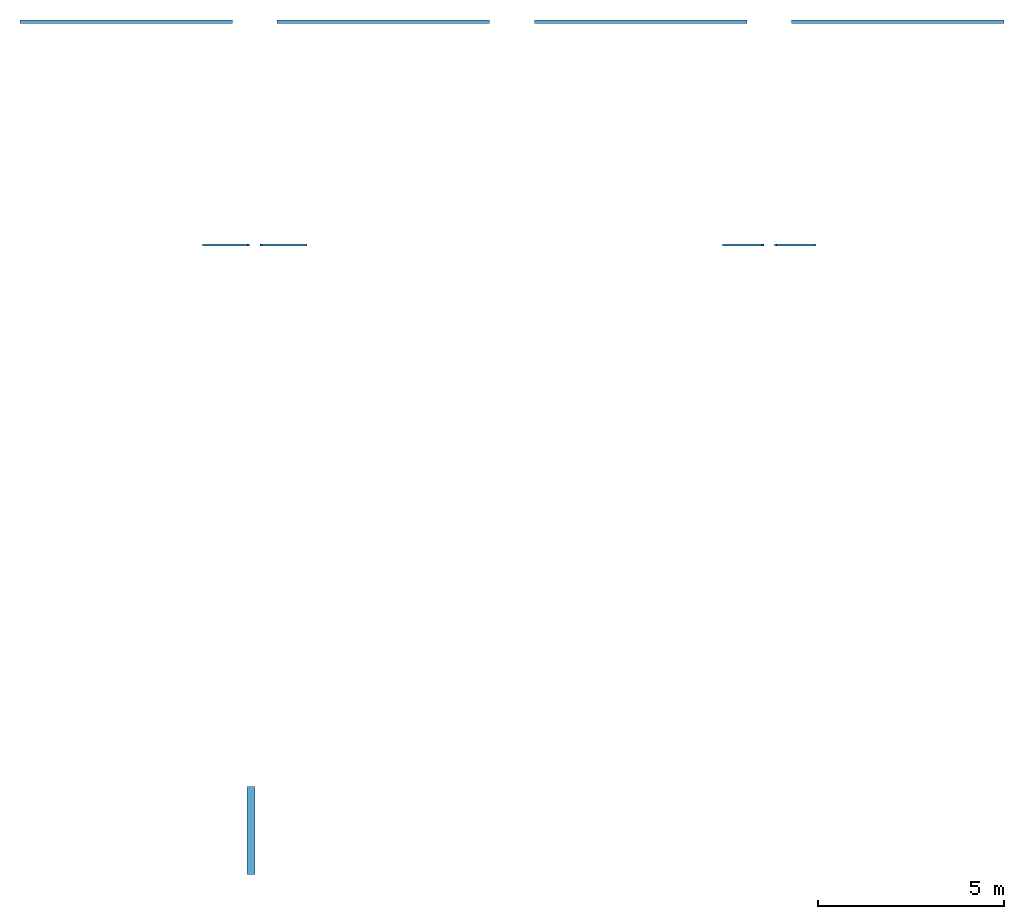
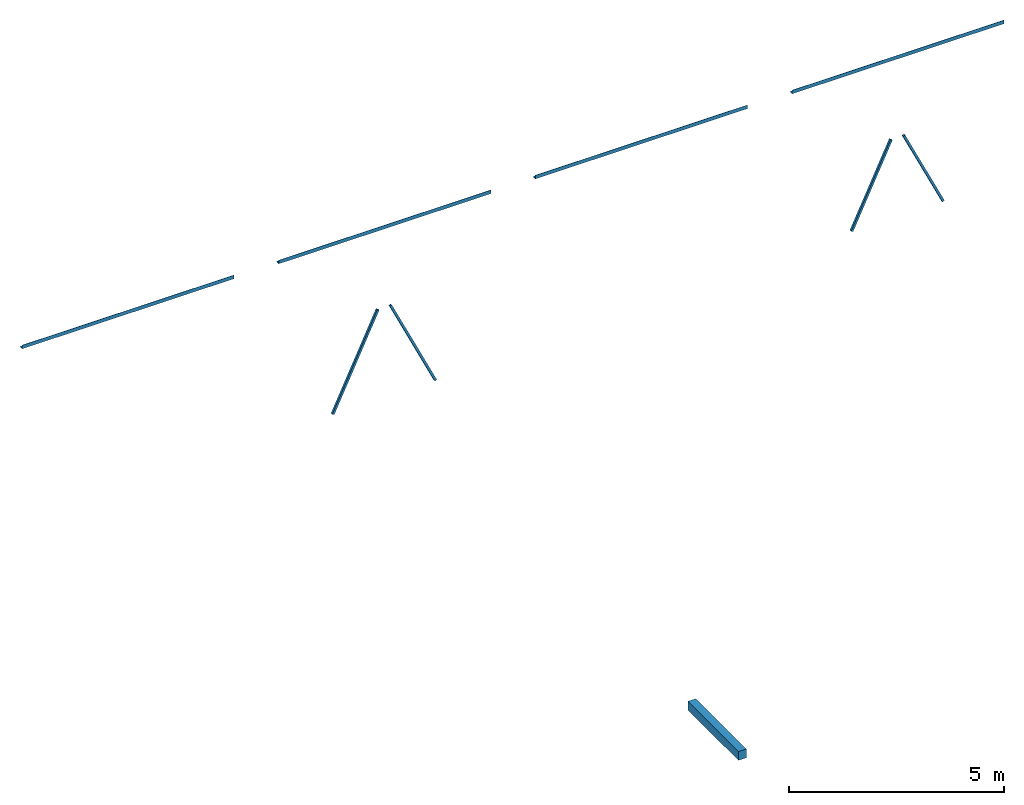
# One storey: 9 beams.
"""IFC2X3 building model written with IfcOpenShell, lengths in millimetres."""

import ifcopenshell
import ifcopenshell.guid

model = None  # the IFC model being written
_history = None  # IfcOwnerHistory: only IFC2X3 demands one
_inside = {}  # id of a spatial element -> (the spatial element, [elements in it])
_under = {}  # id of a project, library or spatial element -> (it, [spatial elements below it])
_declared = {}  # id of a project -> (the project, [libraries it declares])
_typed = {}  # id of a type object -> (the type object, [elements of that type])
_made_of = {}  # id of a material, layer set ... -> (it, [elements and type objects made of it])


def new_model(schema):
    """Start an empty IFC model of exactly this schema.

    Asked for "IFC4X3", IfcOpenShell would pick the latest addendum, in which some entities
    have other attributes; the version numbers below select the first issue.
    IFC2X3 requires an IfcOwnerHistory on every rooted entity: one is made here for all.
    """
    global model, _history
    if schema == "IFC4X3":
        model = ifcopenshell.file(schema_version=(4, 3, 0, 0))
    else:
        model = ifcopenshell.file(schema=schema)
    _inside.clear()
    _under.clear()
    _declared.clear()
    _typed.clear()
    _made_of.clear()
    _history = None
    if model.schema == "IFC2X3":
        org = make("IfcOrganization", Name="unknown")
        user = make(
            "IfcPersonAndOrganization",
            ThePerson=make("IfcPerson", FamilyName="unknown"),
            TheOrganization=org,
        )
        app = make(
            "IfcApplication",
            ApplicationDeveloper=org,
            Version="unknown",
            ApplicationFullName="unknown",
            ApplicationIdentifier="unknown",
        )
        _history = make(
            "IfcOwnerHistory",
            OwningUser=user,
            OwningApplication=app,
            ChangeAction="ADDED",
            CreationDate=0,
        )
    return model


def make(cls, **values):
    """One entity of the class cls with the attributes given. An attribute that is None is left unset."""
    return model.create_entity(
        cls, **{name: value for name, value in values.items() if value is not None}
    )


def entity(cls, *values):
    """Any entity or typed value of the class cls, its attributes in the order of the schema. None: left unset."""
    e = model.create_entity(cls)
    for i, value in enumerate(values):
        if value is not None:
            e[i] = value
    return e


def rooted(cls, **values):
    """An entity with a GlobalId (a new one), such as an element, a storey or a relation."""
    return make(cls, GlobalId=ifcopenshell.guid.new(), OwnerHistory=_history, **values)


def si_unit(unit_type, name, prefix=None):
    """IfcSIUnit, for example si_unit("LENGTHUNIT", "METRE", prefix="MILLI")."""
    return make("IfcSIUnit", UnitType=unit_type, Prefix=prefix, Name=name)


def converted_unit(unit_type, name, factor, base, dimensions=None, offset=None):
    """IfcConversionBasedUnit, such as the inch: factor (a typed value) times the base unit."""
    return make(
        "IfcConversionBasedUnit"
        if offset is None
        else "IfcConversionBasedUnitWithOffset",
        ConversionOffset=offset,
        Dimensions=None
        if dimensions is None
        else entity("IfcDimensionalExponents", *dimensions),
        UnitType=unit_type,
        Name=name,
        ConversionFactor=make(
            "IfcMeasureWithUnit", ValueComponent=factor, UnitComponent=base
        ),
    )


def derived_unit(unit_type, elements):
    """IfcDerivedUnit: a product of units, each with its exponent."""
    return make(
        "IfcDerivedUnit",
        Elements=[
            make("IfcDerivedUnitElement", Unit=unit, Exponent=power)
            for unit, power in elements
        ],
        UnitType=unit_type,
    )


def assignment(units):
    """IfcUnitAssignment: the units of a project."""
    return None if units is None else make("IfcUnitAssignment", Units=units)


def point(xyz):
    """IfcCartesianPoint."""
    return None if xyz is None else make("IfcCartesianPoint", Coordinates=xyz)


def direction(xyz):
    """IfcDirection."""
    return None if xyz is None else make("IfcDirection", DirectionRatios=xyz)


def frame(location, z_axis=None, x_axis=None):
    """IfcAxis2Placement3D, a coordinate frame: its origin and axes. An axis left out is left unset."""
    return make(
        "IfcAxis2Placement3D",
        Location=point(location),
        Axis=direction(z_axis),
        RefDirection=direction(x_axis),
    )


def frame_2d(location, x_axis=None):
    """IfcAxis2Placement2D, a coordinate frame in the plane: its origin and x axis."""
    return make(
        "IfcAxis2Placement2D", Location=point(location), RefDirection=direction(x_axis)
    )


def origin():
    """The frame at (0, 0, 0) with its axes left unset."""
    return frame((0.0, 0.0, 0.0))


def place(relative_to, where):
    """IfcLocalPlacement: puts the frame where relative to a parent placement (None: the world)."""
    return make(
        "IfcLocalPlacement", PlacementRelTo=relative_to, RelativePlacement=where
    )


def context(
    kind, dimensions, precision=None, world=None, true_north=None, identifier=None
):
    """IfcGeometricRepresentationContext, for example the 3D "Model" context."""
    return make(
        "IfcGeometricRepresentationContext",
        ContextIdentifier=identifier,
        ContextType=kind,
        CoordinateSpaceDimension=dimensions,
        Precision=precision,
        WorldCoordinateSystem=world,
        TrueNorth=true_north,
    )


def subcontext(parent, identifier, kind, view, scale=None):
    """IfcGeometricRepresentationSubContext, for example "Body" below "Model"."""
    return make(
        "IfcGeometricRepresentationSubContext",
        ContextIdentifier=identifier,
        ContextType=kind,
        ParentContext=parent,
        TargetScale=scale,
        TargetView=view,
    )


def project(units=None, contexts=None):
    """IfcProject with its units and contexts."""
    return rooted(
        "IfcProject",
        Name="project",
        RepresentationContexts=contexts,
        UnitsInContext=assignment(units),
    )


def spatial(cls, under=None, at=None, **own):
    """A site, building, storey or space (cls), placed at a placement, below another one or the project."""
    s = rooted(cls, ObjectPlacement=at, **own)
    if under is not None:
        _under.setdefault(under.id(), (under, []))[1].append(s)
    return s


def polyline(points):
    """IfcPolyline through the points."""
    return make("IfcPolyline", Points=[point(p) for p in points])


def profile(cls, at=None, kind="AREA", **sizes):
    """A parametric profile (cls). Its sizes go by their IFC names, for example OverallWidth=200.0."""
    return make(cls, ProfileType=kind, Position=at, **sizes)


def rectangle(**sizes):
    """IfcRectangleProfileDef."""
    return profile("IfcRectangleProfileDef", **sizes)


def outline(outer, holes=None, kind="AREA"):
    """IfcArbitraryClosedProfileDef: a profile drawn as a closed curve; with holes, ...WithVoids."""
    if holes is None:
        return make("IfcArbitraryClosedProfileDef", ProfileType=kind, OuterCurve=outer)
    return make(
        "IfcArbitraryProfileDefWithVoids",
        ProfileType=kind,
        OuterCurve=outer,
        InnerCurves=holes,
    )


def extrude(swept, where, along, depth):
    """IfcExtrudedAreaSolid: the profile swept, set in the frame where, extruded along a direction by depth."""
    return make(
        "IfcExtrudedAreaSolid",
        SweptArea=swept,
        Position=where,
        ExtrudedDirection=direction(along),
        Depth=depth,
    )


def boolean(op, a, b):
    """IfcBooleanResult of two solids."""
    return make("IfcBooleanResult", Operator=op, FirstOperand=a, SecondOperand=b)


def shape(context_of_items, identifier, shape_type, items):
    """IfcShapeRepresentation: the items that make up one representation, for example the "Body"."""
    return make(
        "IfcShapeRepresentation",
        ContextOfItems=context_of_items,
        RepresentationIdentifier=identifier,
        RepresentationType=shape_type,
        Items=items,
    )


def material(Name=None, Category=None):
    """IfcMaterial."""
    return make("IfcMaterial", Name=Name, Category=Category)


def made_of(thing, what):
    """Note that an element or type object is made of a material, layer set ...; save() writes the relation."""
    if what is not None:
        _made_of.setdefault(what.id(), (what, []))[1].append(thing)
    return thing


def type_object(cls, material=None, **own):
    """A type object (cls), such as IfcWallType, which elements share."""
    return made_of(rooted(cls, **own), material)


def element(
    cls,
    number,
    at=None,
    inside=None,
    cuts=None,
    type_object=None,
    material=None,
    context=None,
    identifier="Body",
    shape_type=None,
    held_by="IfcProductDefinitionShape",
    body=None,
    shapes=None,
    **own,
):
    """One element of the class cls, such as IfcWall. Its Tag is "e" and its number.

    at: its placement. inside: the storey or other place that contains it. cuts: it is an
    opening in that element (IfcRelVoidsElement). A single representation is given by context,
    identifier, shape_type and body (its items); several are given by shapes. held_by: the class
    of the entity that holds the representations. save() writes the other relations.
    """
    e = rooted(cls, Tag="e%d" % number, ObjectPlacement=at, **own)
    if body is not None:
        shapes = [shape(context, identifier, shape_type, body)]
    if shapes is not None:
        e.Representation = make(held_by, Representations=shapes)
    if inside is not None:
        _inside.setdefault(inside.id(), (inside, []))[1].append(e)
    if cuts is not None:
        rooted(
            "IfcRelVoidsElement", RelatingBuildingElement=cuts, RelatedOpeningElement=e
        )
    if type_object is not None:
        _typed.setdefault(type_object.id(), (type_object, []))[1].append(e)
    return made_of(e, material)


def aggregate(whole, parts):
    """IfcRelAggregates: a whole, such as a stair, and the parts it consists of."""
    return rooted("IfcRelAggregates", RelatingObject=whole, RelatedObjects=parts)


def save(model, path):
    """Write the relations noted so far, then the file.

    IfcRelAggregates (storeys below a building ...), IfcRelContainedInSpatialStructure (elements
    in a storey), IfcRelDefinesByType, IfcRelAssociatesMaterial and IfcRelDeclares: one each for
    every whole, place, type object, material and project.
    """
    for whole, parts in _under.values():
        aggregate(whole, parts)
    for where, things in _inside.values():
        rooted(
            "IfcRelContainedInSpatialStructure",
            RelatedElements=things,
            RelatingStructure=where,
        )
    for kind, things in _typed.values():
        rooted("IfcRelDefinesByType", RelatedObjects=things, RelatingType=kind)
    for what, things in _made_of.values():
        rooted("IfcRelAssociatesMaterial", RelatedObjects=things, RelatingMaterial=what)
    for by, libraries in _declared.values():
        rooted("IfcRelDeclares", RelatingContext=by, RelatedDefinitions=libraries)
    model.write(path)


model = new_model("IFC2X3")

# Units and contexts
model_context = context("Model", 3, precision=0.01, world=origin(), true_north=direction((6.123031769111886e-17, 1.0)))
body_context = subcontext(model_context, "Body", "Model", "MODEL_VIEW")
ifc_project = project(units=[si_unit("LENGTHUNIT", "METRE", prefix="MILLI"), si_unit("AREAUNIT", "SQUARE_METRE", prefix="MILLI"), si_unit("VOLUMEUNIT", "CUBIC_METRE"), converted_unit("PLANEANGLEUNIT", "DEGREE", entity("IfcPlaneAngleMeasure", 0.017453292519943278), si_unit("PLANEANGLEUNIT", "RADIAN"), dimensions=[0, 0, 0, 0, 0, 0, 0]), si_unit("MASSUNIT", "GRAM", prefix="KILO"), derived_unit("MASSDENSITYUNIT", [(si_unit("MASSUNIT", "GRAM", prefix="KILO"), 1), (si_unit("LENGTHUNIT", "METRE"), -3)]), derived_unit("IONCONCENTRATIONUNIT", [(si_unit("MASSUNIT", "GRAM", prefix="KILO"), 1), (si_unit("LENGTHUNIT", "METRE"), -3)]), derived_unit("MOMENTOFINERTIAUNIT", [(si_unit("LENGTHUNIT", "METRE"), 4)]), si_unit("TIMEUNIT", "SECOND"), si_unit("FREQUENCYUNIT", "HERTZ"), si_unit("THERMODYNAMICTEMPERATUREUNIT", "DEGREE_CELSIUS"), derived_unit("THERMALTRANSMITTANCEUNIT", [(si_unit("MASSUNIT", "GRAM", prefix="KILO"), 1), (si_unit("THERMODYNAMICTEMPERATUREUNIT", "KELVIN"), -1), (si_unit("TIMEUNIT", "SECOND"), -3)]), derived_unit("THERMALCONDUCTANCEUNIT", [(si_unit("MASSUNIT", "GRAM", prefix="KILO"), 1), (si_unit("THERMODYNAMICTEMPERATUREUNIT", "KELVIN"), -1), (si_unit("TIMEUNIT", "SECOND"), -3), (si_unit("LENGTHUNIT", "METRE"), 1)]), derived_unit("VOLUMETRICFLOWRATEUNIT", [(si_unit("LENGTHUNIT", "METRE", prefix="DECI"), 3), (si_unit("TIMEUNIT", "SECOND"), -1)]), derived_unit("MASSFLOWRATEUNIT", [(si_unit("MASSUNIT", "GRAM", prefix="KILO"), 1), (si_unit("TIMEUNIT", "SECOND"), -1)]), derived_unit("ROTATIONALFREQUENCYUNIT", [(si_unit("TIMEUNIT", "SECOND"), -1)]), si_unit("ELECTRICCURRENTUNIT", "AMPERE"), si_unit("ELECTRICVOLTAGEUNIT", "VOLT"), si_unit("POWERUNIT", "WATT"), si_unit("FORCEUNIT", "NEWTON", prefix="KILO"), si_unit("ILLUMINANCEUNIT", "LUX"), si_unit("LUMINOUSFLUXUNIT", "LUMEN"), si_unit("LUMINOUSINTENSITYUNIT", "CANDELA"), si_unit("ENERGYUNIT", "JOULE"), derived_unit("USERDEFINED", [(si_unit("MASSUNIT", "GRAM", prefix="KILO"), -1), (si_unit("LENGTHUNIT", "METRE"), -2), (si_unit("TIMEUNIT", "SECOND"), 3), (si_unit("LUMINOUSFLUXUNIT", "LUMEN"), 1)]), derived_unit("USERDEFINED", [(si_unit("MASSUNIT", "GRAM", prefix="KILO"), 1), (si_unit("TIMEUNIT", "SECOND"), -3), (si_unit("LENGTHUNIT", "METRE"), 3), (si_unit("ELECTRICCURRENTUNIT", "AMPERE"), -2)]), derived_unit("SOUNDPOWERUNIT", [(si_unit("MASSUNIT", "GRAM", prefix="KILO"), 1), (si_unit("TIMEUNIT", "SECOND"), -3), (si_unit("LENGTHUNIT", "METRE"), 2)]), derived_unit("SOUNDPRESSUREUNIT", [(si_unit("MASSUNIT", "GRAM", prefix="KILO"), 1), (si_unit("LENGTHUNIT", "METRE"), -1), (si_unit("TIMEUNIT", "SECOND"), -2)]), derived_unit("LINEARVELOCITYUNIT", [(si_unit("LENGTHUNIT", "METRE"), 1), (si_unit("TIMEUNIT", "SECOND"), -1)]), si_unit("PRESSUREUNIT", "PASCAL"), derived_unit("USERDEFINED", [(si_unit("MASSUNIT", "GRAM", prefix="KILO"), 1), (si_unit("LENGTHUNIT", "METRE"), -2), (si_unit("TIMEUNIT", "SECOND"), -2)]), derived_unit("LINEARFORCEUNIT", [(si_unit("MASSUNIT", "GRAM", prefix="KILO"), 1), (si_unit("TIMEUNIT", "SECOND"), -2)]), derived_unit("PLANARFORCEUNIT", [(si_unit("MASSUNIT", "GRAM", prefix="KILO"), 1), (si_unit("LENGTHUNIT", "METRE"), -1), (si_unit("TIMEUNIT", "SECOND"), -2)]), derived_unit("SPECIFICHEATCAPACITYUNIT", [(si_unit("THERMODYNAMICTEMPERATUREUNIT", "KELVIN"), -1), (si_unit("LENGTHUNIT", "METRE"), 2), (si_unit("TIMEUNIT", "SECOND"), -2)]), derived_unit("HEATFLUXDENSITYUNIT", [(si_unit("MASSUNIT", "GRAM", prefix="KILO"), 1), (si_unit("TIMEUNIT", "SECOND"), -3)]), derived_unit("HEATINGVALUEUNIT", [(si_unit("LENGTHUNIT", "METRE"), 2), (si_unit("TIMEUNIT", "SECOND"), -2)]), derived_unit("VAPORPERMEABILITYUNIT", [(si_unit("LENGTHUNIT", "METRE"), -1), (si_unit("TIMEUNIT", "SECOND"), 1)]), derived_unit("DYNAMICVISCOSITYUNIT", [(si_unit("MASSUNIT", "GRAM", prefix="KILO"), 1), (si_unit("TIMEUNIT", "SECOND"), -1), (si_unit("LENGTHUNIT", "METRE"), -1)]), derived_unit("THERMALEXPANSIONCOEFFICIENTUNIT", [(si_unit("THERMODYNAMICTEMPERATUREUNIT", "KELVIN"), -1)]), derived_unit("MODULUSOFELASTICITYUNIT", [(si_unit("MASSUNIT", "GRAM", prefix="KILO"), 1), (si_unit("LENGTHUNIT", "METRE"), -1), (si_unit("TIMEUNIT", "SECOND"), -2)]), derived_unit("ISOTHERMALMOISTURECAPACITYUNIT", [(si_unit("MASSUNIT", "GRAM", prefix="KILO"), -1), (si_unit("LENGTHUNIT", "METRE"), 3)]), derived_unit("MOISTUREDIFFUSIVITYUNIT", [(si_unit("TIMEUNIT", "SECOND"), -1), (si_unit("LENGTHUNIT", "METRE"), 2)]), derived_unit("MASSPERLENGTHUNIT", [(si_unit("MASSUNIT", "GRAM", prefix="KILO"), 1), (si_unit("LENGTHUNIT", "METRE"), -1)]), derived_unit("THERMALRESISTANCEUNIT", [(si_unit("MASSUNIT", "GRAM", prefix="KILO"), -1), (si_unit("TIMEUNIT", "SECOND"), 3), (si_unit("THERMODYNAMICTEMPERATUREUNIT", "KELVIN"), 1)]), derived_unit("ACCELERATIONUNIT", [(si_unit("LENGTHUNIT", "METRE"), 1), (si_unit("TIMEUNIT", "SECOND"), -2)]), derived_unit("ANGULARVELOCITYUNIT", [(si_unit("TIMEUNIT", "SECOND"), -1), (si_unit("PLANEANGLEUNIT", "RADIAN"), 1)]), derived_unit("LINEARSTIFFNESSUNIT", [(si_unit("MASSUNIT", "GRAM", prefix="KILO"), 1), (si_unit("TIMEUNIT", "SECOND"), -2)]), derived_unit("WARPINGCONSTANTUNIT", [(si_unit("LENGTHUNIT", "METRE"), 6)]), derived_unit("LINEARMOMENTUNIT", [(si_unit("MASSUNIT", "GRAM", prefix="KILO"), 1), (si_unit("LENGTHUNIT", "METRE"), 1), (si_unit("TIMEUNIT", "SECOND"), -2)]), derived_unit("TORQUEUNIT", [(si_unit("MASSUNIT", "GRAM", prefix="KILO"), 1), (si_unit("LENGTHUNIT", "METRE"), 2), (si_unit("TIMEUNIT", "SECOND"), -2)])], contexts=[model_context])

# Site, building, storey
site_placement = place(None, origin())
site = spatial("IfcSite", under=ifc_project, at=site_placement, Name="Default", CompositionType="ELEMENT")
building_placement = place(site_placement, origin())
building = spatial("IfcBuilding", under=site, at=building_placement, CompositionType="ELEMENT")
storey_placement = place(building_placement, frame((0.0, 0.0, 9310.0)))
storey = spatial("IfcBuildingStorey", under=building, at=storey_placement, Name="KDV nok", CompositionType="ELEMENT", Elevation=9310.000000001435)

# Beams
ifc_material_1 = material(Name="Beton, prefab")
beam_type_1 = type_object("IfcBeamType", Name="btl_prefab - RBeam:214x250", PredefinedType="NOTDEFINED")
beam_1_placement = place(storey_placement, frame((6718.000781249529, 22771.135781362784, 1247.992346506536), z_axis=(0.0, 0.0, 1.0), x_axis=(0.0, -1.0, 0.0)))
element("IfcBeam", 1, at=beam_1_placement, inside=storey, type_object=beam_type_1, material=ifc_material_1, Name="btl_prefab - RBeam:214x250", ObjectType="btl_prefab - RBeam:214x250", context=body_context, shape_type="SweptSolid", body=[
    extrude(rectangle(XDim=250.00000000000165, YDim=214.00000000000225, at=frame_2d((1.0800249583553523e-12, -5.400124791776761e-13), x_axis=(1.0, 0.0))), frame((-300.0, 0.0, -125.0), z_axis=(1.0, 0.0, 0.0), x_axis=(0.0, 0.0, -1.0)), (0.0, 0.0, 1.0), 2360.0854533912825),
])
ifc_material_2 = material(Name="Metal - Steel - S275 J0H (standaard-kokers/buizen)")
beam_type_2 = type_object("IfcBeamType", Name="btl_staal - Koker:K60x60x5.0", PredefinedType="NOTDEFINED")
beam_2_placement = place(storey_placement, frame((6827.203493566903, 37599.573205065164, 3924.119539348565), z_axis=(0.9036089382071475, 0.0, 0.42835836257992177), x_axis=(0.42835836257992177, 0.0, -0.9036089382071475)))
element("IfcBeam", 2, at=beam_2_placement, inside=storey, type_object=beam_type_2, material=ifc_material_2, Name="btl_staal - Koker:K60x60x5.0", ObjectType="btl_staal - Koker:K60x60x5.0", context=body_context, shape_type="SweptSolid", body=[
    boolean("DIFFERENCE", extrude(rectangle(XDim=59.99999999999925, YDim=59.99999999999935, at=frame_2d((-9.539036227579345e-13, 2.1653789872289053e-12), x_axis=(1.0, 0.0))), frame((394.6454117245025, -5.0, 0.0), z_axis=(1.0, 0.0, 0.0), x_axis=(0.0, 0.0, -1.0)), (0.0, 0.0, 1.0), 2818.3987620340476), extrude(rectangle(XDim=49.99999999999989, YDim=49.9999999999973, at=frame_2d((-4.332534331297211e-12, -4.902744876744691e-13), x_axis=(0.0, 1.0))), frame((394.6454117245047, -5.0, 0.0), z_axis=(1.0, 0.0, 0.0), x_axis=(0.0, -1.0, 0.0)), (0.0, 0.0, 1.0), 2818.398762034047)),
])
beam_3_placement = place(storey_placement, frame((6822.798068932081, 37599.385705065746, 3924.119539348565), z_axis=(0.9036089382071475, 0.0, -0.4283583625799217), x_axis=(-0.4283583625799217, 0.0, -0.9036089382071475)))
element("IfcBeam", 3, at=beam_3_placement, inside=storey, type_object=beam_type_2, material=ifc_material_2, Name="btl_staal - Koker:K60x60x5.0", ObjectType="btl_staal - Koker:K60x60x5.0", context=body_context, shape_type="SweptSolid", body=[
    boolean("DIFFERENCE", extrude(rectangle(XDim=59.99999999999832, YDim=60.00000000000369, at=frame_2d((4.902744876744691e-13, -4.330757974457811e-12), x_axis=(1.0, 0.0))), frame((394.6454117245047, -5.0, 0.0), z_axis=(1.0, 0.0, 0.0), x_axis=(0.0, 0.0, -1.0)), (0.0, 0.0, 1.0), 2818.398762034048), extrude(rectangle(XDim=49.99999999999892, YDim=49.9999999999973, at=frame_2d((0.0, 9.78772618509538e-13), x_axis=(0.0, 1.0))), frame((3213.044173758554, -5.0, 0.0), z_axis=(-1.0, 0.0, 0.0), x_axis=(0.0, -1.0, 0.0)), (0.0, 0.0, 1.0), 2818.398762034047)),
])
beam_4_placement = place(storey_placement, frame((20627.18736634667, 37599.38570506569, 3924.1195393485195), z_axis=(0.9036089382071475, 0.0, 0.42835836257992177), x_axis=(0.42835836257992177, 0.0, -0.9036089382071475)))
element("IfcBeam", 4, at=beam_4_placement, inside=storey, type_object=beam_type_2, material=ifc_material_2, Name="btl_staal - Koker:K60x60x5.0", ObjectType="btl_staal - Koker:K60x60x5.0", context=body_context, shape_type="SweptSolid", body=[
    boolean("DIFFERENCE", extrude(rectangle(XDim=59.999999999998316, YDim=59.99999999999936, at=frame_2d((0.0, -2.1653789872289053e-12), x_axis=(1.0, 0.0))), frame((394.6454117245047, -5.0, 0.0), z_axis=(1.0, 0.0, 0.0), x_axis=(0.0, 0.0, -1.0)), (0.0, 0.0, 1.0), 2466.0108112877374), extrude(rectangle(XDim=49.99999999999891, YDim=49.9999999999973, at=frame_2d((-4.332534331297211e-12, 0.0), x_axis=(0.0, 1.0))), frame((394.6454117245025, -5.0, 0.0), z_axis=(1.0, 0.0, 0.0), x_axis=(0.0, -1.0, 0.0)), (0.0, 0.0, 1.0), 2466.010811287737)),
])
beam_5_placement = place(storey_placement, frame((20622.781941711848, 37599.385705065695, 3924.1195393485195), z_axis=(0.9036089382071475, 0.0, -0.4283583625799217), x_axis=(-0.4283583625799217, 0.0, -0.9036089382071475)))
element("IfcBeam", 5, at=beam_5_placement, inside=storey, type_object=beam_type_2, material=ifc_material_2, Name="btl_staal - Koker:K60x60x5.0", ObjectType="btl_staal - Koker:K60x60x5.0", context=body_context, shape_type="SweptSolid", body=[
    boolean("DIFFERENCE", extrude(rectangle(XDim=59.999999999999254, YDim=59.99999999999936, at=frame_2d((4.654054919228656e-13, 2.1653789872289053e-12), x_axis=(1.0, 0.0))), frame((394.6454117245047, -5.0, 0.0), z_axis=(1.0, 0.0, 0.0), x_axis=(0.0, 0.0, -1.0)), (0.0, 0.0, 1.0), 2466.010811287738), extrude(rectangle(XDim=49.99999999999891, YDim=49.99999999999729, at=frame_2d((0.0, 0.0), x_axis=(0.0, 1.0))), frame((2860.656223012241, -5.0, 0.0), z_axis=(-1.0, 0.0, 0.0), x_axis=(0.0, -1.0, 0.0)), (0.0, 0.0, 1.0), 2466.0108112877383)),
])
ifc_material_3 = material(Name="Metal - Steel - S235 JRG2 (standaard)")
beam_type_3 = type_object("IfcBeamType", Name="btl_staal - Hoeklijn 2.0:L100x100x10", PredefinedType="NOTDEFINED")
beam_6_placement = place(storey_placement, frame((7425.828851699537, 43562.79316510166, 1088.0)))
element("IfcBeam", 6, at=beam_6_placement, inside=storey, type_object=beam_type_3, material=ifc_material_3, Name="btl_staal - Hoeklijn 2.0:L100x100x10", ObjectType="btl_staal - Hoeklijn 2.0:L100x100x10", context=body_context, shape_type="SweptSolid", body=[
    extrude(outline(polyline([(-63.33333333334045, -36.66666666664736), (36.66666666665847, -36.66666666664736), (36.6666666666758, 63.333333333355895), (26.66666666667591, 63.33333333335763), (26.666666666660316, -26.6666666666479), (-63.33333333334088, -26.666666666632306), (-63.33333333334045, -36.66666666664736)])), frame((0.0, 8.446666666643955, -63.333333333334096), z_axis=(1.0, 0.0, 0.0), x_axis=(0.0, 0.0, -1.0)), (0.0, 0.0, 1.0), 5700.299494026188),
])
for number, where, name in (
    (7, (14326.192283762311, 43562.79316510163, 1088.0), "btl_staal - Hoeklijn 2.0:L100x100x10"),
    (8, (21226.557180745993, 43562.79316510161, 1088.0), "btl_staal - Hoeklijn 2.0:L100x100x10"),
    (9, (525.466152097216, 43562.79316510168, 1088.0), "btl_staal - Hoeklijn 2.0:L100x100x10"),
):
    element("IfcBeam", number, at=place(storey_placement, frame(where)), inside=storey, type_object=beam_type_3, material=ifc_material_3, Name=name, ObjectType="btl_staal - Hoeklijn 2.0:L100x100x10", context=body_context, shape_type="SweptSolid", body=[
        extrude(outline(polyline([(-63.33333333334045, -36.66666666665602), (36.66666666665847, -36.66666666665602), (36.6666666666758, 63.333333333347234), (26.66666666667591, 63.33333333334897), (26.666666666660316, -26.66666666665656), (-63.33333333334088, -26.666666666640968), (-63.33333333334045, -36.66666666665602)])), frame((0.0, 8.446666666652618, -63.333333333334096), z_axis=(1.0, 0.0, 0.0), x_axis=(0.0, 0.0, -1.0)), (0.0, 0.0, 1.0), 5700.299494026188),
    ])

save(model, "model.ifc")
